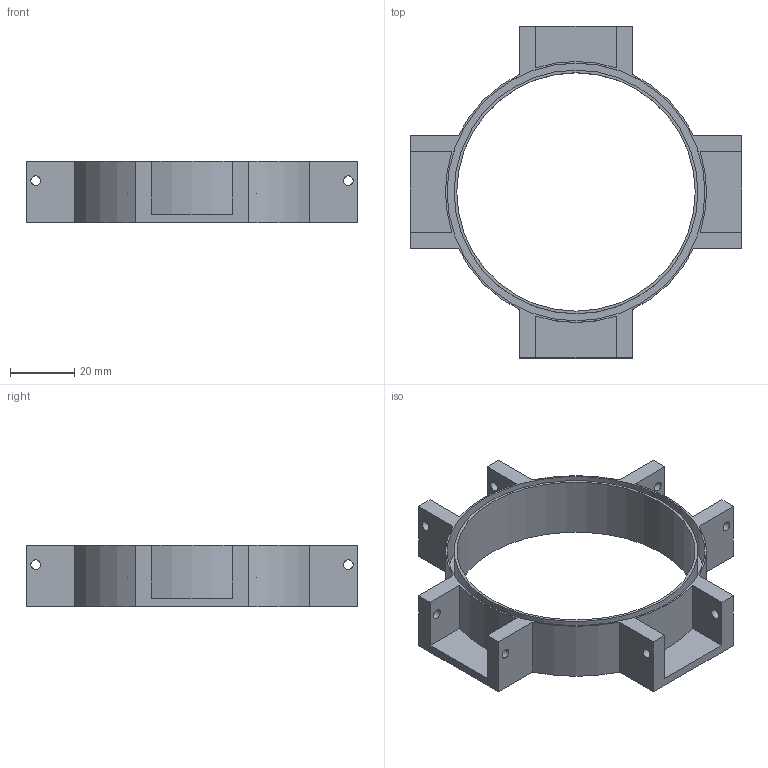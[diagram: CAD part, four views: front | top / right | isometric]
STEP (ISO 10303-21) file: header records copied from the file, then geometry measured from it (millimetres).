
FILE_DESCRIPTION(/* description */ ('STEP AP242 Edition 2','CAx-IF Rec.Pracs.---Representation and Presentation of Product Manufacturing Information (PMI)---4.0---2014-10-13','CAx-IF Rec.Pracs.---3D Tessellated Geometry---0.4---2014-09-14','2;1','CAx-IF Rec.Pracs.---User Defined Attributes---1.5---2016-08-15'),/* implementation_level */ '2;1');
FILE_NAME(/* name */ '695aff26d13f1a023388954f',/* time_stamp */ '2026-01-05T00:00:38Z',/* author */ (''),/* organization */ (''),/* preprocessor_version */ 'ST-DEVELOPER v20',/* originating_system */ 'ONSHAPE BY PTC INC, 1.208',/* authorisation */ ' ');
FILE_SCHEMA (('AP242_MANAGED_MODEL_BASED_3D_ENGINEERING_MIM_LF { 1 0 10303 442 3 1 4 }'));
Length unit declared in the file: metre
Products named in the file (1): Part 1
Bounding box: 103 x 103 x 19 mm (x, y, z)
Volume: 24140.6 mm3; surface area: 23486.9 mm2
Topology: 1 solids, 1 shells, 47 faces, 133 edges, 90 vertices
Faces by surface type: plane 28, cylinder 19
Full cylindrical faces by diameter (mm): 3 x8, 74 x1, 75.6 x1, 80 x1
Entity records: 1504 total; most frequent: DIRECTION 252, CARTESIAN_POINT 252, ORIENTED_EDGE 236, EDGE_CURVE 118, VERTEX_POINT 86, AXIS2_PLACEMENT_3D 86, LINE 80, VECTOR 80
